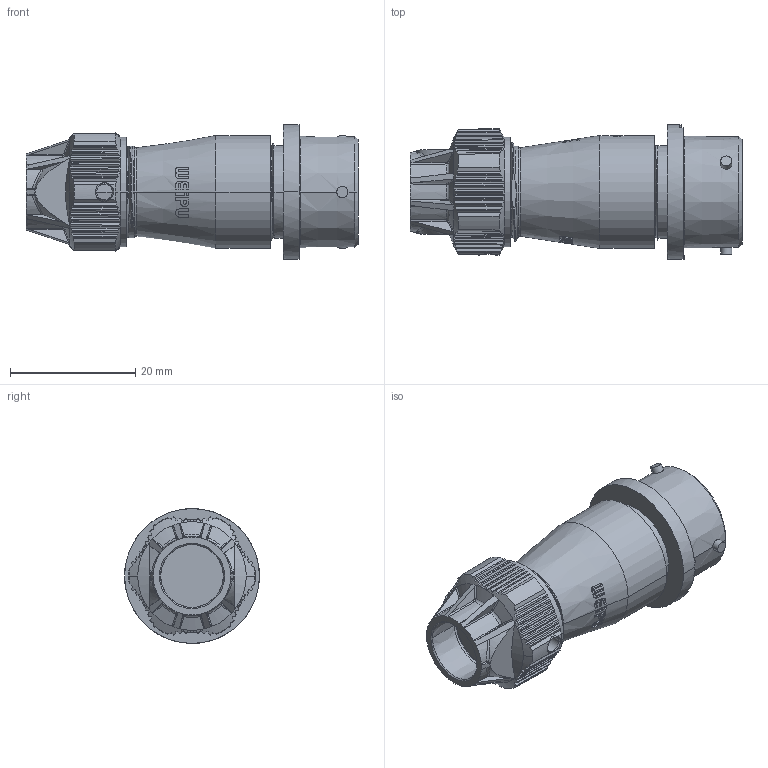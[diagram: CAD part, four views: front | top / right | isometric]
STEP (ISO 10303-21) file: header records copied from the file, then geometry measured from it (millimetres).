
FILE_DESCRIPTION((''),'2;1');
FILE_NAME('WY16K5ZE','2020-04-28T',('Administrator'),(''),'CREO PARAMETRIC BY PTC INC, 2016130','CREO PARAMETRIC BY PTC INC, 2016130','');
FILE_SCHEMA(('CONFIG_CONTROL_DESIGN'));
Length unit declared in the file: millimetre
Products named in the file (1): WY16K5ZE
Bounding box: 52.92 x 21.5 x 21.5 mm (x, y, z)
Surface area: 8867 mm2
Topology: 2 solids, 6 shells, 847 faces, 2392 edges, 1563 vertices
Faces by surface type: plane 314, cone 204, cylinder 169, bspline 98, extrusion 43, torus 19
Entity records: 39893 total; most frequent: CARTESIAN_POINT 20202, ORIENTED_EDGE 4765, DIRECTION 3071, EDGE_CURVE 2392, VERTEX_POINT 1563, B_SPLINE_CURVE_WITH_KNOTS 1234, AXIS2_PLACEMENT_3D 1120, EDGE_LOOP 892
